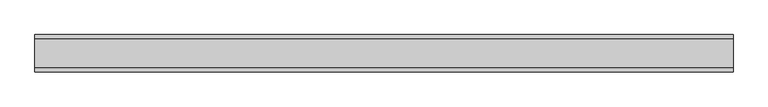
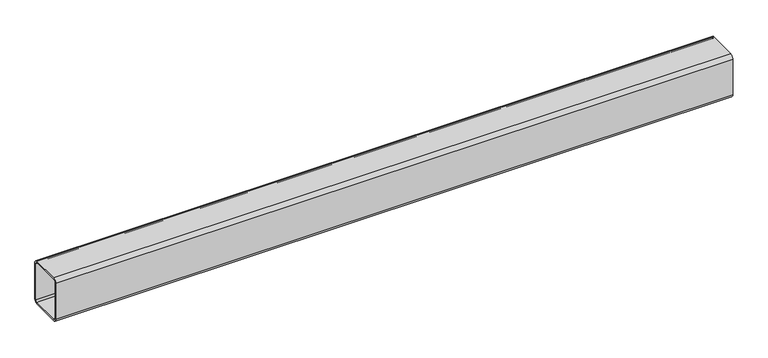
"""IFC4 building model written with IfcOpenShell, lengths in millimetres: beam geometry, Труба прямоугольного сечения (ТУ 67-2287-80) Балки : труба200x160x8."""

from ifc_helpers import new_model, si_unit, point, frame, frame_2d, origin, place, context, project, spatial, polyline, circle_curve, trimmed, segment, composite_curve, outline, extrude, source, transform, mapped, element, save


def beam_69299123(model_context):
    return source(origin(), model_context, "Body", "SweptSolid", [
        extrude(outline(composite_curve([segment(polyline([(-64.0, 100.0), (64.0, 100.0)]), True, "CONTINUOUS"), segment(trimmed(circle_curve(frame_2d((64.0, 84.0)), 16.0), [point((64.0, 100.0))], [point((80.0, 84.0))], False, "CARTESIAN"), True, "CONTINUOUS"), segment(polyline([(80.0, 84.0), (80.0, -84.0)]), True, "CONTINUOUS"), segment(trimmed(circle_curve(frame_2d((64.0, -84.0)), 16.0), [point((80.0, -84.0))], [point((64.0, -100.0))], False, "CARTESIAN"), True, "CONTINUOUS"), segment(polyline([(64.0, -100.0), (-64.0, -100.0)]), True, "CONTINUOUS"), segment(trimmed(circle_curve(frame_2d((-64.0, -84.0)), 16.0), [point((-64.0, -100.0))], [point((-80.0, -84.0))], False, "CARTESIAN"), True, "CONTINUOUS"), segment(polyline([(-80.0, -84.0), (-80.0, 84.0)]), True, "CONTINUOUS"), segment(trimmed(circle_curve(frame_2d((-64.0, 84.0)), 16.0), [point((-80.0, 84.0))], [point((-64.0, 100.0))], False, "CARTESIAN"), True, "CONTINUOUS")], self_intersect=False), holes=[composite_curve([segment(trimmed(circle_curve(frame_2d((-64.0, 84.0)), 8.0), [point((-64.0, 92.0))], [point((-72.0, 84.0))], True, "CARTESIAN"), True, "CONTINUOUS"), segment(polyline([(-72.0, 84.0), (-72.0, -84.0)]), True, "CONTINUOUS"), segment(trimmed(circle_curve(frame_2d((-64.0, -84.0)), 8.0), [point((-72.0, -84.0))], [point((-64.0, -92.0))], True, "CARTESIAN"), True, "CONTINUOUS"), segment(polyline([(-64.0, -92.0), (64.0, -92.0)]), True, "CONTINUOUS"), segment(trimmed(circle_curve(frame_2d((64.0, -84.0)), 8.0), [point((64.0, -92.0))], [point((72.0, -84.0))], True, "CARTESIAN"), True, "CONTINUOUS"), segment(polyline([(72.0, -84.0), (72.0, 84.0)]), True, "CONTINUOUS"), segment(trimmed(circle_curve(frame_2d((64.0, 84.0)), 8.0), [point((72.0, 84.0))], [point((64.0, 92.0))], True, "CARTESIAN"), True, "CONTINUOUS"), segment(polyline([(64.0, 92.0), (-64.0, 92.0)]), True, "CONTINUOUS")], self_intersect=False)]), frame((-1500.0, 0.0, 0.0), z_axis=(1.0, 0.0, 0.0), x_axis=(0.0, 1.0, 0.0)), (0.0, 0.0, 1.0), 3000.0),
    ])


if __name__ == "__main__":
    model = new_model("IFC4")
    model_context = context("Model", 3, world=origin())
    ifc_project = project(units=[si_unit("LENGTHUNIT", "METRE", prefix="MILLI")], contexts=[model_context])
    site = spatial("IfcSite", under=ifc_project)
    building = spatial("IfcBuilding", under=site)
    placement = place(None, origin())
    beam_shape = beam_69299123(model_context)
    element("IfcBeam", 1, ObjectType="Труба прямоугольного сечения (ТУ 67-2287-80) Балки : труба200x160x8", at=placement, inside=building, context=model_context, shape_type="MappedRepresentation", body=[
        mapped(beam_shape, transform((0.0, 0.0, 0.0), x_axis=(1.0, 0.0, 0.0), y_axis=(0.0, 1.0, 0.0), z_axis=(0.0, 0.0, 1.0))),
    ])
    save(model, "model.ifc")
